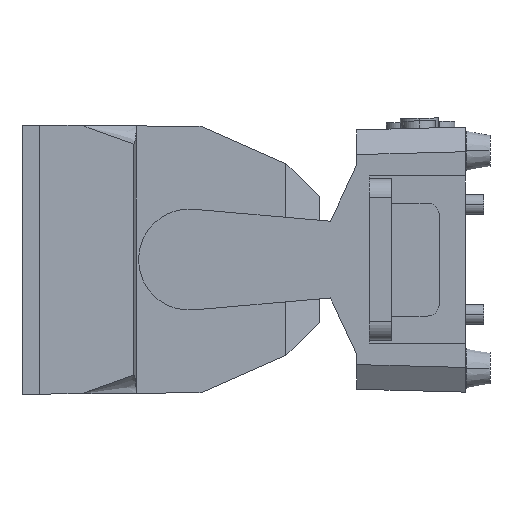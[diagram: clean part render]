
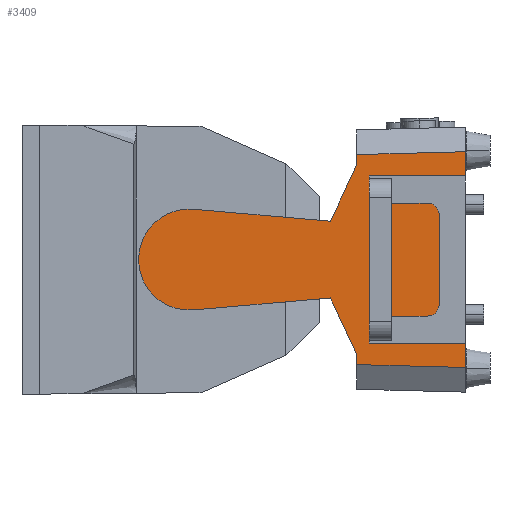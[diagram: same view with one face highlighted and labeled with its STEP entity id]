
A CAD part, left-side view. The second image highlights one B-rep face of the part: STEP entity #3409.
In plain terms, the highlighted planar face has unit normal (-1, 0, 0).
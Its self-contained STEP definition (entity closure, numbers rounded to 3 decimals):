
#564=CARTESIAN_POINT('',(-195.5,31.,35.8));
#565=DIRECTION('',(-1.,0.,0.));
#566=DIRECTION('',(0.,-1.,0.));
#567=AXIS2_PLACEMENT_3D('',#564,#565,#566);
#572=DIRECTION('',(0.,0.,1.));
#573=VECTOR('',#572,71.6);
#574=CARTESIAN_POINT('',(-195.5,21.,-35.8));
#575=LINE('',#574,#573);
#579=CARTESIAN_POINT('',(-195.5,31.,-35.8));
#580=DIRECTION('',(-1.,0.,0.));
#581=DIRECTION('',(0.,0.,-1.));
#582=AXIS2_PLACEMENT_3D('',#579,#580,#581);
#587=DIRECTION('',(0.,-1.,0.));
#588=VECTOR('',#587,47.);
#589=CARTESIAN_POINT('',(-195.5,78.,-45.8));
#590=LINE('',#589,#588);
#594=DIRECTION('',(0.,0.,1.));
#595=VECTOR('',#594,0.7);
#596=CARTESIAN_POINT('',(-195.5,78.,-46.5));
#597=LINE('',#596,#595);
#601=DIRECTION('',(0.,0.,-1.));
#602=VECTOR('',#601,19.);
#603=CARTESIAN_POINT('',(-195.5,78.,-46.5));
#604=LINE('',#603,#602);
#608=DIRECTION('',(0.,0.,1.));
#609=VECTOR('',#608,2.3);
#610=CARTESIAN_POINT('',(-195.5,78.,-67.8));
#611=LINE('',#610,#609);
#615=DIRECTION('',(0.,1.,0.));
#616=VECTOR('',#615,78.);
#617=CARTESIAN_POINT('',(-195.5,0.,-67.8));
#618=LINE('',#617,#616);
#622=DIRECTION('',(0.,0.,-1.));
#623=VECTOR('',#622,19.693);
#624=CARTESIAN_POINT('',(-195.5,0.,-67.8));
#625=LINE('',#624,#623);
#629=DIRECTION('',(0.,-1.,-0.026));
#630=VECTOR('',#629,88.03);
#631=CARTESIAN_POINT('',(-195.5,88.,-85.189));
#632=LINE('',#631,#630);
#636=DIRECTION('',(0.,0.,1.));
#637=VECTOR('',#636,8.189);
#638=CARTESIAN_POINT('',(-195.5,88.,-85.189));
#639=LINE('',#638,#637);
#643=DIRECTION('',(0.,0.423,0.906));
#644=VECTOR('',#643,50.612);
#645=CARTESIAN_POINT('',(-195.5,88.,-77.));
#646=LINE('',#645,#644);
#650=DIRECTION('',(0.,0.996,-0.087));
#651=VECTOR('',#650,111.461);
#652=CARTESIAN_POINT('',(-195.5,109.39,-31.13));
#653=LINE('',#652,#651);
#657=CARTESIAN_POINT('',(-195.5,224.,0.));
#658=DIRECTION('',(1.,0.,0.));
#659=DIRECTION('',(0.,-0.087,-0.996));
#660=AXIS2_PLACEMENT_3D('',#657,#658,#659);
#665=DIRECTION('',(0.,-0.996,-0.087));
#666=VECTOR('',#665,111.461);
#667=CARTESIAN_POINT('',(-195.5,220.427,40.844));
#668=LINE('',#667,#666);
#672=DIRECTION('',(0.,-0.423,0.906));
#673=VECTOR('',#672,50.612);
#674=CARTESIAN_POINT('',(-195.5,109.39,31.13));
#675=LINE('',#674,#673);
#679=DIRECTION('',(0.,0.,1.));
#680=VECTOR('',#679,8.189);
#681=CARTESIAN_POINT('',(-195.5,88.,77.));
#682=LINE('',#681,#680);
#686=DIRECTION('',(0.,1.,-0.026));
#687=VECTOR('',#686,88.03);
#688=CARTESIAN_POINT('',(-195.5,0.,87.493));
#689=LINE('',#688,#687);
#693=DIRECTION('',(0.,0.,-1.));
#694=VECTOR('',#693,19.693);
#695=CARTESIAN_POINT('',(-195.5,0.,87.493));
#696=LINE('',#695,#694);
#700=DIRECTION('',(0.,1.,0.));
#701=VECTOR('',#700,78.);
#702=CARTESIAN_POINT('',(-195.5,0.,67.8));
#703=LINE('',#702,#701);
#707=DIRECTION('',(0.,0.,1.));
#708=VECTOR('',#707,2.3);
#709=CARTESIAN_POINT('',(-195.5,78.,65.5));
#710=LINE('',#709,#708);
#714=DIRECTION('',(0.,0.,-1.));
#715=VECTOR('',#714,19.);
#716=CARTESIAN_POINT('',(-195.5,78.,65.5));
#717=LINE('',#716,#715);
#721=DIRECTION('',(0.,0.,1.));
#722=VECTOR('',#721,0.7);
#723=CARTESIAN_POINT('',(-195.5,78.,45.8));
#724=LINE('',#723,#722);
#728=DIRECTION('',(0.,1.,0.));
#729=VECTOR('',#728,47.);
#730=CARTESIAN_POINT('',(-195.5,31.,45.8));
#731=LINE('',#730,#729);
#2822=CARTESIAN_POINT('',(-195.5,88.,-77.));
#2823=CARTESIAN_POINT('',(-195.5,109.39,-31.13));
#2824=VERTEX_POINT('',#2822);
#2825=VERTEX_POINT('',#2823);
#2826=CARTESIAN_POINT('',(-195.5,220.427,-40.844));
#2827=VERTEX_POINT('',#2826);
#2828=CARTESIAN_POINT('',(-195.5,220.427,40.844));
#2829=VERTEX_POINT('',#2828);
#2830=CARTESIAN_POINT('',(-195.5,109.39,31.13));
#2831=VERTEX_POINT('',#2830);
#2832=CARTESIAN_POINT('',(-195.5,88.,77.));
#2833=VERTEX_POINT('',#2832);
#2846=CARTESIAN_POINT('',(-195.5,78.,-67.8));
#2847=VERTEX_POINT('',#2846);
#2848=CARTESIAN_POINT('',(-195.5,78.,-45.8));
#2850=VERTEX_POINT('',#2848);
#2852=CARTESIAN_POINT('',(-195.5,78.,45.8));
#2854=VERTEX_POINT('',#2852);
#2856=CARTESIAN_POINT('',(-195.5,78.,67.8));
#2857=VERTEX_POINT('',#2856);
#2874=CARTESIAN_POINT('',(-195.5,88.,85.189));
#2876=VERTEX_POINT('',#2874);
#2880=CARTESIAN_POINT('',(-195.5,0.,87.493));
#2881=VERTEX_POINT('',#2880);
#2882=CARTESIAN_POINT('',(-195.5,0.,-87.493));
#2884=VERTEX_POINT('',#2882);
#2888=CARTESIAN_POINT('',(-195.5,88.,-85.189));
#2889=VERTEX_POINT('',#2888);
#2890=CARTESIAN_POINT('',(-195.5,0.,-67.8));
#2891=VERTEX_POINT('',#2890);
#2892=CARTESIAN_POINT('',(-195.5,0.,67.8));
#2893=VERTEX_POINT('',#2892);
#2894=CARTESIAN_POINT('',(-195.5,78.,65.5));
#2895=CARTESIAN_POINT('',(-195.5,78.,46.5));
#2896=VERTEX_POINT('',#2894);
#2897=VERTEX_POINT('',#2895);
#2898=CARTESIAN_POINT('',(-195.5,78.,-46.5));
#2899=CARTESIAN_POINT('',(-195.5,78.,-65.5));
#2900=VERTEX_POINT('',#2898);
#2901=VERTEX_POINT('',#2899);
#2918=CARTESIAN_POINT('',(-195.5,21.,35.8));
#2920=VERTEX_POINT('',#2918);
#2922=CARTESIAN_POINT('',(-195.5,31.,45.8));
#2923=VERTEX_POINT('',#2922);
#2926=CARTESIAN_POINT('',(-195.5,31.,-45.8));
#2928=VERTEX_POINT('',#2926);
#2930=CARTESIAN_POINT('',(-195.5,21.,-35.8));
#2931=VERTEX_POINT('',#2930);
#3358=CARTESIAN_POINT('',(-195.5,0.,0.));
#3359=DIRECTION('',(1.,0.,0.));
#3360=DIRECTION('',(0.,0.,-1.));
#3361=AXIS2_PLACEMENT_3D('',#3358,#3359,#3360);
#3362=PLANE('',#3361);
#3364=ORIENTED_EDGE('',*,*,#3363,.F.);
#3366=ORIENTED_EDGE('',*,*,#3365,.F.);
#3367=ORIENTED_EDGE('',*,*,#3350,.F.);
#3368=ORIENTED_EDGE('',*,*,#3339,.F.);
#3370=ORIENTED_EDGE('',*,*,#3369,.F.);
#3372=ORIENTED_EDGE('',*,*,#3371,.T.);
#3374=ORIENTED_EDGE('',*,*,#3373,.F.);
#3376=ORIENTED_EDGE('',*,*,#3375,.F.);
#3377=ORIENTED_EDGE('',*,*,#3087,.T.);
#3379=ORIENTED_EDGE('',*,*,#3378,.F.);
#3381=ORIENTED_EDGE('',*,*,#3380,.T.);
#3383=ORIENTED_EDGE('',*,*,#3382,.T.);
#3385=ORIENTED_EDGE('',*,*,#3384,.T.);
#3387=ORIENTED_EDGE('',*,*,#3386,.T.);
#3389=ORIENTED_EDGE('',*,*,#3388,.T.);
#3391=ORIENTED_EDGE('',*,*,#3390,.T.);
#3393=ORIENTED_EDGE('',*,*,#3392,.T.);
#3395=ORIENTED_EDGE('',*,*,#3394,.F.);
#3396=ORIENTED_EDGE('',*,*,#3055,.T.);
#3398=ORIENTED_EDGE('',*,*,#3397,.T.);
#3400=ORIENTED_EDGE('',*,*,#3399,.F.);
#3402=ORIENTED_EDGE('',*,*,#3401,.T.);
#3404=ORIENTED_EDGE('',*,*,#3403,.F.);
#3406=ORIENTED_EDGE('',*,*,#3405,.F.);
#3407=EDGE_LOOP('',(#3364,#3366,#3367,#3368,#3370,#3372,#3374,#3376,#3377,#3379,
#3381,#3383,#3385,#3387,#3389,#3391,#3393,#3395,#3396,#3398,#3400,#3402,#3404,
#3406));
#3408=FACE_OUTER_BOUND('',#3407,.F.);
#568=CIRCLE('',#567,10.);
#583=CIRCLE('',#582,10.);
#661=CIRCLE('',#660,41.);
#3055=EDGE_CURVE('',#2881,#2893,#696,.T.);
#3087=EDGE_CURVE('',#2891,#2884,#625,.T.);
#3339=EDGE_CURVE('',#2850,#2928,#590,.T.);
#3350=EDGE_CURVE('',#2928,#2931,#583,.T.);
#3363=EDGE_CURVE('',#2920,#2923,#568,.T.);
#3365=EDGE_CURVE('',#2931,#2920,#575,.T.);
#3369=EDGE_CURVE('',#2900,#2850,#597,.T.);
#3371=EDGE_CURVE('',#2900,#2901,#604,.T.);
#3373=EDGE_CURVE('',#2847,#2901,#611,.T.);
#3375=EDGE_CURVE('',#2891,#2847,#618,.T.);
#3378=EDGE_CURVE('',#2889,#2884,#632,.T.);
#3380=EDGE_CURVE('',#2889,#2824,#639,.T.);
#3382=EDGE_CURVE('',#2824,#2825,#646,.T.);
#3384=EDGE_CURVE('',#2825,#2827,#653,.T.);
#3386=EDGE_CURVE('',#2827,#2829,#661,.T.);
#3388=EDGE_CURVE('',#2829,#2831,#668,.T.);
#3390=EDGE_CURVE('',#2831,#2833,#675,.T.);
#3392=EDGE_CURVE('',#2833,#2876,#682,.T.);
#3394=EDGE_CURVE('',#2881,#2876,#689,.T.);
#3397=EDGE_CURVE('',#2893,#2857,#703,.T.);
#3399=EDGE_CURVE('',#2896,#2857,#710,.T.);
#3401=EDGE_CURVE('',#2896,#2897,#717,.T.);
#3403=EDGE_CURVE('',#2854,#2897,#724,.T.);
#3405=EDGE_CURVE('',#2923,#2854,#731,.T.);
#3409=ADVANCED_FACE('',(#3408),#3362,.F.);
